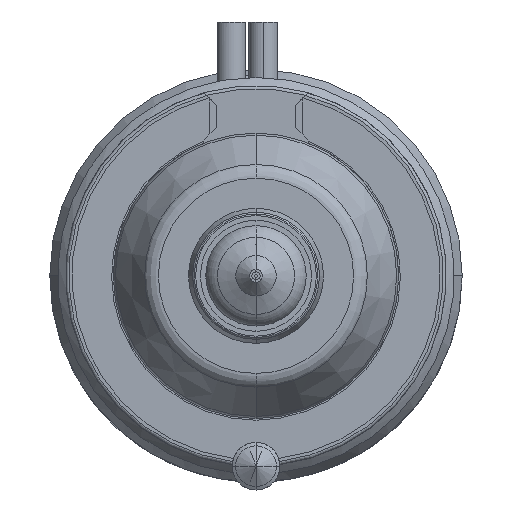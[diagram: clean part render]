
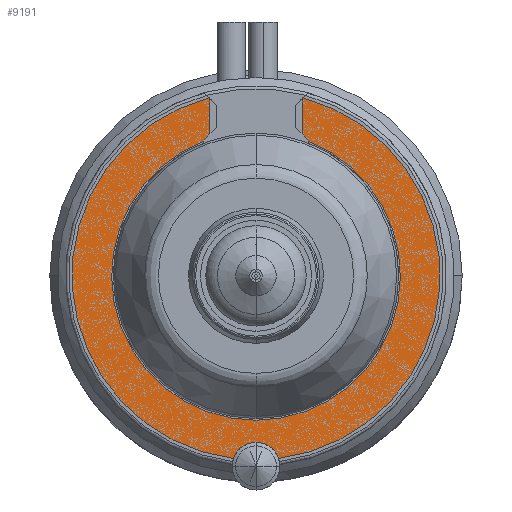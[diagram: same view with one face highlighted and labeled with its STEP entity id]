
A CAD part, front view. The second image highlights one B-rep face of the part: STEP entity #9191.
In plain terms, the highlighted planar face has unit normal (0, -1, 0).
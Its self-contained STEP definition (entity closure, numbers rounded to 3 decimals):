
#595=DIRECTION('',(0.707,0.,-0.707));
#596=VECTOR('',#595,0.092);
#597=CARTESIAN_POINT('',(-2.965,-22.,11.215));
#598=LINE('',#597,#596);
#1554=CARTESIAN_POINT('',(0.,-22.,6.2));
#1555=DIRECTION('',(0.,1.,0.));
#1556=DIRECTION('',(0.725,0.,0.689));
#1557=AXIS2_PLACEMENT_3D('',#1554,#1555,#1556);
#1569=CARTESIAN_POINT('',(0.,-22.,-12.));
#1570=DIRECTION('',(0.,1.,0.));
#1571=DIRECTION('',(-0.946,0.,0.325));
#1572=AXIS2_PLACEMENT_3D('',#1569,#1570,#1571);
#1588=CARTESIAN_POINT('',(0.,-22.,0.));
#1589=DIRECTION('',(0.,1.,0.));
#1590=DIRECTION('',(-0.122,0.,-0.992));
#1591=AXIS2_PLACEMENT_3D('',#1588,#1589,#1590);
#1600=CARTESIAN_POINT('',(0.,-22.,0.));
#1601=DIRECTION('',(0.,1.,0.));
#1602=DIRECTION('',(0.256,0.,0.967));
#1603=AXIS2_PLACEMENT_3D('',#1600,#1601,#1602);
#1616=DIRECTION('',(-0.707,0.,-0.707));
#1617=VECTOR('',#1616,0.092);
#1618=CARTESIAN_POINT('',(2.965,-22.,11.215));
#1619=LINE('',#1618,#1617);
#1624=DIRECTION('',(0.,0.,-1.));
#1625=VECTOR('',#1624,2.195);
#1626=CARTESIAN_POINT('',(2.9,-22.,11.15));
#1627=LINE('',#1626,#1625);
#1655=DIRECTION('',(0.,0.,1.));
#1656=VECTOR('',#1655,2.195);
#1657=CARTESIAN_POINT('',(-2.9,-22.,8.955));
#1658=LINE('',#1657,#1656);
#1690=CARTESIAN_POINT('',(0.,-22.,6.2));
#1691=DIRECTION('',(0.,1.,0.));
#1692=DIRECTION('',(-0.82,0.,0.572));
#1693=AXIS2_PLACEMENT_3D('',#1690,#1691,#1692);
#1705=CARTESIAN_POINT('',(0.,-22.,0.));
#1706=DIRECTION('',(0.,-1.,0.));
#1707=DIRECTION('',(-0.361,0.,0.933));
#1708=AXIS2_PLACEMENT_3D('',#1705,#1706,#1707);
#7305=CARTESIAN_POINT('',(2.965,-22.,11.215));
#7306=CARTESIAN_POINT('',(2.9,-22.,11.15));
#7307=VERTEX_POINT('',#7305);
#7308=VERTEX_POINT('',#7306);
#7313=CARTESIAN_POINT('',(-2.965,-22.,11.215));
#7314=CARTESIAN_POINT('',(-2.9,-22.,11.15));
#7315=VERTEX_POINT('',#7313);
#7316=VERTEX_POINT('',#7314);
#7351=CARTESIAN_POINT('',(2.9,-22.,8.955));
#7352=CARTESIAN_POINT('',(3.281,-22.,8.488));
#7353=VERTEX_POINT('',#7351);
#7354=VERTEX_POINT('',#7352);
#7355=CARTESIAN_POINT('',(-3.281,-22.,8.488));
#7356=CARTESIAN_POINT('',(-2.9,-22.,8.955));
#7357=VERTEX_POINT('',#7355);
#7358=VERTEX_POINT('',#7356);
#7500=CARTESIAN_POINT('',(-1.419,-22.,-11.513));
#7501=CARTESIAN_POINT('',(1.419,-22.,-11.513));
#7502=VERTEX_POINT('',#7500);
#7503=VERTEX_POINT('',#7501);
#9167=CARTESIAN_POINT('',(0.,-22.,0.));
#9168=DIRECTION('',(0.,-1.,0.));
#9169=DIRECTION('',(-1.,0.,0.));
#9170=AXIS2_PLACEMENT_3D('',#9167,#9168,#9169);
#9171=PLANE('',#9170);
#9172=ORIENTED_EDGE('',*,*,#8654,.F.);
#9174=ORIENTED_EDGE('',*,*,#9173,.T.);
#9175=ORIENTED_EDGE('',*,*,#8774,.T.);
#9177=ORIENTED_EDGE('',*,*,#9176,.F.);
#9179=ORIENTED_EDGE('',*,*,#9178,.F.);
#9181=ORIENTED_EDGE('',*,*,#9180,.T.);
#9182=ORIENTED_EDGE('',*,*,#9146,.F.);
#9184=ORIENTED_EDGE('',*,*,#9183,.F.);
#9186=ORIENTED_EDGE('',*,*,#9185,.F.);
#9188=ORIENTED_EDGE('',*,*,#9187,.T.);
#9189=EDGE_LOOP('',(#9172,#9174,#9175,#9177,#9179,#9181,#9182,#9184,#9186,
#9188));
#9190=FACE_OUTER_BOUND('',#9189,.F.);
#9191=ADVANCED_FACE('',(#9190),#9171,.T.);
#1558=CIRCLE('',#1557,4.);
#1573=CIRCLE('',#1572,1.5);
#1592=CIRCLE('',#1591,11.6);
#1604=CIRCLE('',#1603,11.6);
#1694=CIRCLE('',#1693,4.);
#1709=CIRCLE('',#1708,9.1);
#8654=EDGE_CURVE('',#7502,#7503,#1573,.T.);
#8774=EDGE_CURVE('',#7315,#7316,#598,.T.);
#9146=EDGE_CURVE('',#7353,#7354,#1558,.T.);
#9173=EDGE_CURVE('',#7502,#7315,#1592,.T.);
#9176=EDGE_CURVE('',#7358,#7316,#1658,.T.);
#9178=EDGE_CURVE('',#7357,#7358,#1694,.T.);
#9180=EDGE_CURVE('',#7357,#7354,#1709,.T.);
#9183=EDGE_CURVE('',#7308,#7353,#1627,.T.);
#9185=EDGE_CURVE('',#7307,#7308,#1619,.T.);
#9187=EDGE_CURVE('',#7307,#7503,#1604,.T.);
